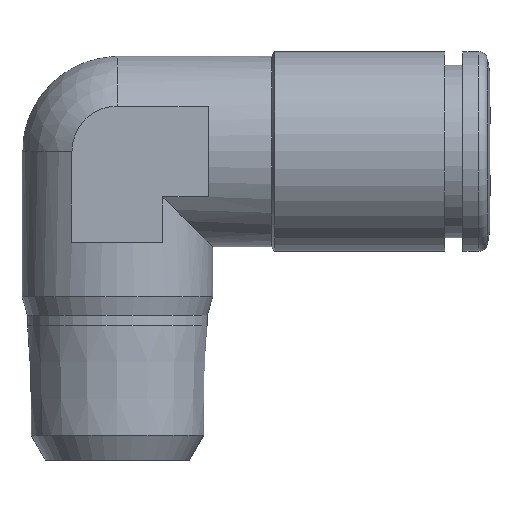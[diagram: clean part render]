
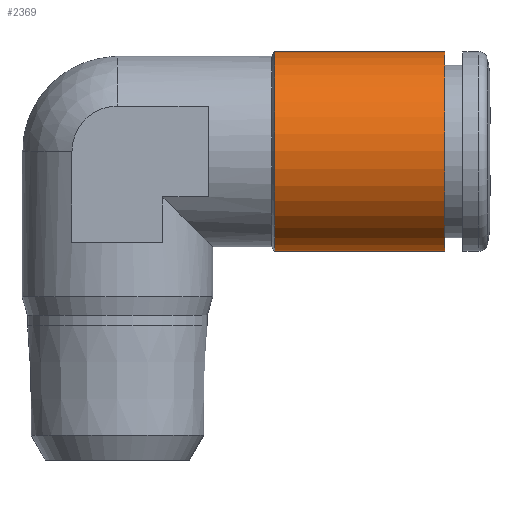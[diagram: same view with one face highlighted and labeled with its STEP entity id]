
A CAD part, front view. The second image highlights one B-rep face of the part: STEP entity #2369.
In plain terms, the highlighted cylindrical face has radius 5.5 mm (diameter 11 mm), a full revolution.
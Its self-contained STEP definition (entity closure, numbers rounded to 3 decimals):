
#1024=CYLINDRICAL_SURFACE('',#2253,5.5);
#1100=ORIENTED_EDGE('',*,*,#1380,.T.);
#1101=ORIENTED_EDGE('',*,*,#1381,.F.);
#1252=CIRCLE('',#2252,5.5);
#1253=CIRCLE('',#2254,5.5);
#1306=VERTEX_POINT('',#2051);
#1307=VERTEX_POINT('',#2054);
#1380=EDGE_CURVE('',#1306,#1306,#1252,.T.);
#1381=EDGE_CURVE('',#1307,#1307,#1253,.T.);
#1488=EDGE_LOOP('',(#1100));
#1489=EDGE_LOOP('',(#1101));
#1590=FACE_BOUND('',#1488,.T.);
#1591=FACE_BOUND('',#1489,.T.);
#1743=DIRECTION('',(-1.,0.,0.));
#1744=DIRECTION('',(0.,5.5,0.));
#1745=DIRECTION('',(-1.,0.,0.));
#1746=DIRECTION('',(0.,1.,0.));
#1747=DIRECTION('',(-1.,0.,0.));
#1748=DIRECTION('',(0.,5.5,0.));
#2051=CARTESIAN_POINT('',(28.349,25.51,0.));
#2052=CARTESIAN_POINT('',(28.349,20.01,0.));
#2053=CARTESIAN_POINT('',(28.349,20.01,0.));
#2054=CARTESIAN_POINT('',(18.993,25.51,0.));
#2055=CARTESIAN_POINT('',(18.993,20.01,0.));
#2252=AXIS2_PLACEMENT_3D('',#2052,#1743,#1744);
#2253=AXIS2_PLACEMENT_3D('',#2053,#1745,#1746);
#2254=AXIS2_PLACEMENT_3D('',#2055,#1747,#1748);
#2369=ADVANCED_FACE('',(#1590,#1591),#1024,.T.);
